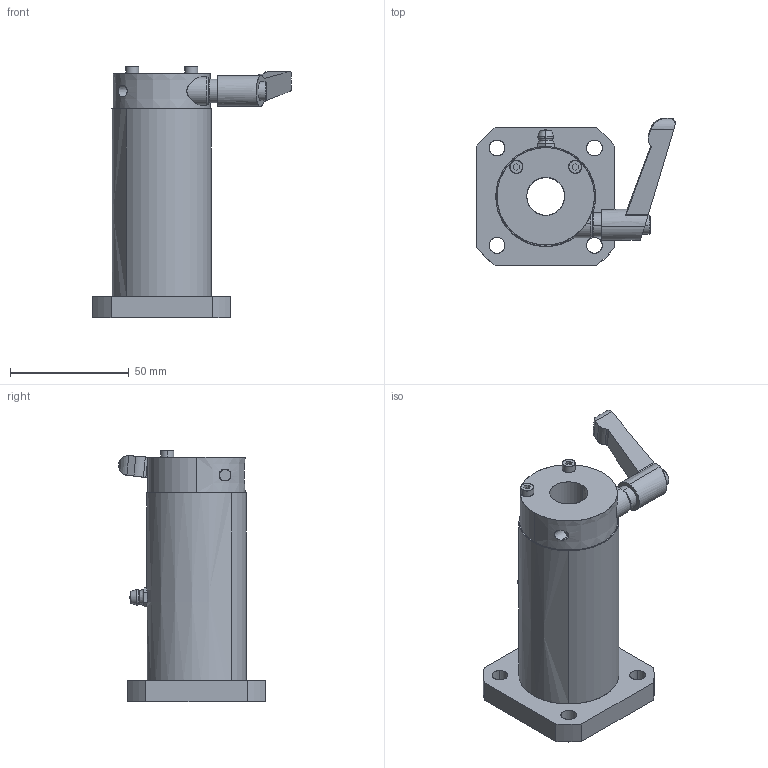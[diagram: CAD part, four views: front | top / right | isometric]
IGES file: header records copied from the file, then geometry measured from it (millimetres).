
Start section: SolidWorks IGES file using analytic representation for surfaces
Global section: file name: C:\Users\yamad\Desktop\IGES\LFWK16-OH-C.IGS; native system: SolidWorks 2019; preprocessor: SolidWorks 2019; author: yamad; date: 230626.171106; units: millimetre
Bounding box: 83.5 x 61.81 x 106 mm (x, y, z)
Surface area: 36693.6 mm2 (no closed solid volume)
Topology: 0 solids, 0 shells, 231 faces, 4891 edges, 4889 vertices
Faces by surface type: bspline 124, revolution 107
